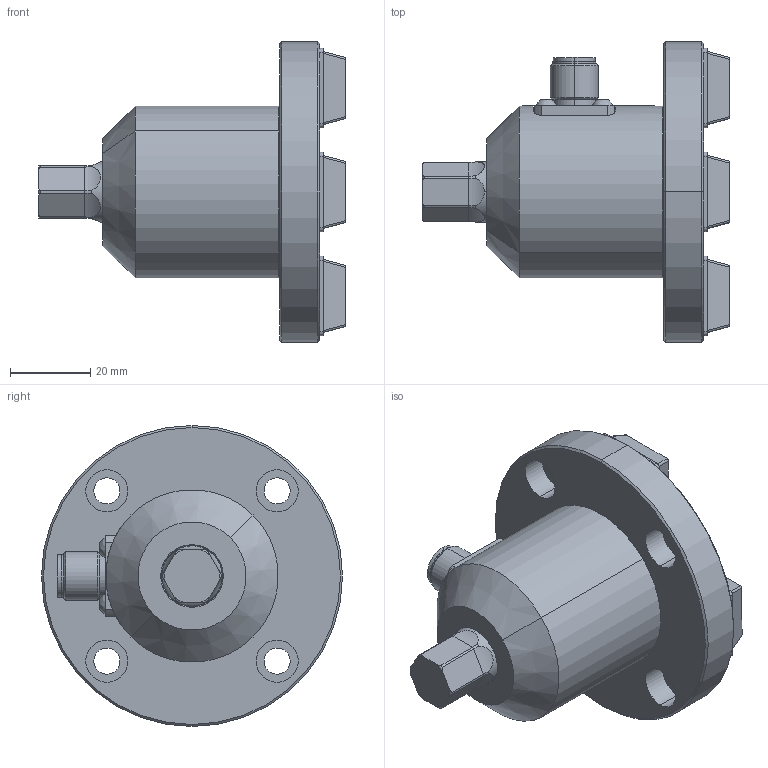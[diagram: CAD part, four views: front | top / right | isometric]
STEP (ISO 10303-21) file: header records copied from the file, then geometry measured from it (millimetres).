
FILE_DESCRIPTION (( 'STEP AP214' ), '1' );
FILE_NAME ('023020 KT20 Trasduttore attuale da 20 Nm Uscita Hex13 mm come attuale.STEP', '2023-02-28T07:57:51', ( '' ), ( '' ), 'SwSTEP 2.0', 'SolidWorks 2022', '' );
FILE_SCHEMA (( 'AUTOMOTIVE_DESIGN' ));
Length unit declared in the file: millimetre
Products named in the file (1): 023020    KT20  Trasduttore attuale da 20 Nm Uscita Hex13 mm come attuale
Bounding box: 76.39 x 75 x 75 mm (x, y, z)
Surface area: 27986.4 mm2 (no closed solid volume)
Topology: 0 solids, 29 shells, 382 faces, 1100 edges, 710 vertices
Faces by surface type: plane 166, cylinder 126, cone 58, torus 28, bspline 4
Entity records: 17329 total; most frequent: CARTESIAN_POINT 3301, DIRECTION 2101, ORIENTED_EDGE 1845, EDGE_CURVE 1076, AXIS2_PLACEMENT_3D 756, VERTEX_POINT 710, LINE 589, VECTOR 589
